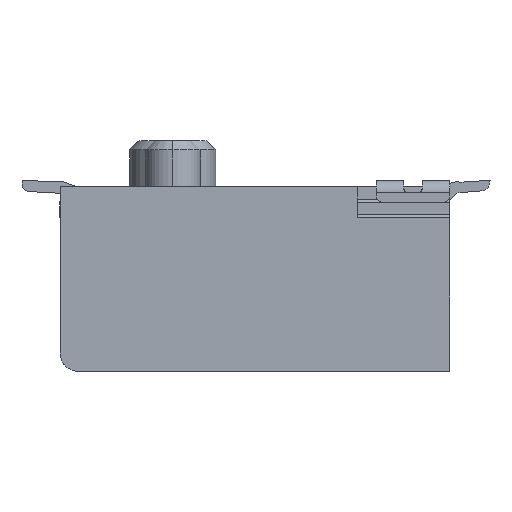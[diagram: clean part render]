
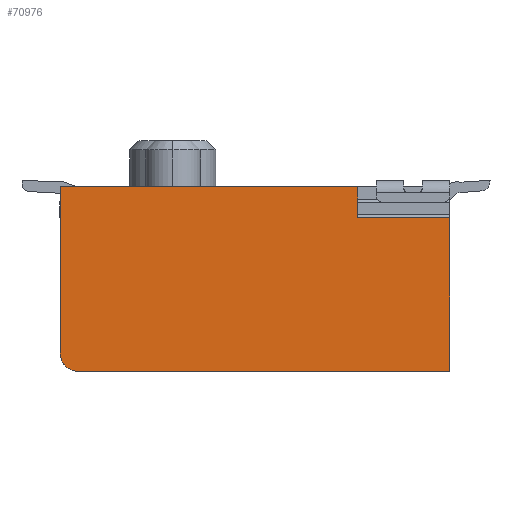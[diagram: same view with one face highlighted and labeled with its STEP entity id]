
A CAD part, left-side view. The second image highlights one B-rep face of the part: STEP entity #70976.
In plain terms, the highlighted planar face has unit normal (-1, 0, 0).
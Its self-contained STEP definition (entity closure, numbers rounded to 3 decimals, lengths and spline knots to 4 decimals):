
#25=DIRECTION('',(0.,-1.,0.));
#26=VECTOR('',#25,6.03);
#27=CARTESIAN_POINT('',(-10.95,2.865,0.));
#28=LINE('',#27,#26);
#4749=DIRECTION('',(0.,0.,1.));
#4750=VECTOR('',#4749,2.5);
#4751=CARTESIAN_POINT('',(-10.95,-3.165,0.));
#4752=LINE('',#4751,#4750);
#17126=DIRECTION('',(0.,-1.,0.));
#17127=VECTOR('',#17126,4.83);
#17128=CARTESIAN_POINT('',(-10.95,3.165,3.));
#17129=LINE('',#17128,#17127);
#20245=DIRECTION('',(0.,0.,1.));
#20246=VECTOR('',#20245,0.5);
#20247=CARTESIAN_POINT('',(-10.95,-1.665,2.5));
#20248=LINE('',#20247,#20246);
#20261=DIRECTION('',(0.,1.,0.));
#20262=VECTOR('',#20261,1.5);
#20263=CARTESIAN_POINT('',(-10.95,-3.165,2.5));
#20264=LINE('',#20263,#20262);
#20265=CARTESIAN_POINT('',(-10.95,2.865,0.3));
#20266=DIRECTION('',(-1.,0.,0.));
#20267=DIRECTION('',(0.,1.,0.));
#20268=AXIS2_PLACEMENT_3D('',#20265,#20266,#20267);
#20270=DIRECTION('',(0.,0.,1.));
#20271=VECTOR('',#20270,2.7);
#20272=CARTESIAN_POINT('',(-10.95,3.165,0.3));
#20273=LINE('',#20272,#20271);
#27830=CARTESIAN_POINT('',(-10.95,-3.165,0.));
#27832=VERTEX_POINT('',#27830);
#27895=CARTESIAN_POINT('',(-10.95,3.165,0.3));
#27896=CARTESIAN_POINT('',(-10.95,2.865,0.));
#27897=VERTEX_POINT('',#27895);
#27898=VERTEX_POINT('',#27896);
#27915=CARTESIAN_POINT('',(-10.95,3.165,3.));
#27916=VERTEX_POINT('',#27915);
#27975=CARTESIAN_POINT('',(-10.95,-1.665,3.));
#27976=VERTEX_POINT('',#27975);
#27977=CARTESIAN_POINT('',(-10.95,-3.165,2.5));
#27978=CARTESIAN_POINT('',(-10.95,-1.665,2.5));
#27979=VERTEX_POINT('',#27977);
#27980=VERTEX_POINT('',#27978);
#70961=CARTESIAN_POINT('',(-10.95,3.165,0.));
#70962=DIRECTION('',(-1.,0.,0.));
#70963=DIRECTION('',(0.,-1.,0.));
#70964=AXIS2_PLACEMENT_3D('',#70961,#70962,#70963);
#70965=PLANE('',#70964);
#70966=ORIENTED_EDGE('',*,*,#70924,.F.);
#70967=ORIENTED_EDGE('',*,*,#70948,.F.);
#70968=ORIENTED_EDGE('',*,*,#44850,.F.);
#70969=ORIENTED_EDGE('',*,*,#36480,.F.);
#70971=ORIENTED_EDGE('',*,*,#70970,.F.);
#70972=ORIENTED_EDGE('',*,*,#63979,.T.);
#70973=ORIENTED_EDGE('',*,*,#64041,.T.);
#70974=EDGE_LOOP('',(#70966,#70967,#70968,#70969,#70971,#70972,#70973));
#70975=FACE_OUTER_BOUND('',#70974,.F.);
#20269=CIRCLE('',#20268,0.3);
#36480=EDGE_CURVE('',#27898,#27832,#28,.T.);
#44850=EDGE_CURVE('',#27832,#27979,#4752,.T.);
#63979=EDGE_CURVE('',#27897,#27916,#20273,.T.);
#64041=EDGE_CURVE('',#27916,#27976,#17129,.T.);
#70924=EDGE_CURVE('',#27980,#27976,#20248,.T.);
#70948=EDGE_CURVE('',#27979,#27980,#20264,.T.);
#70970=EDGE_CURVE('',#27897,#27898,#20269,.T.);
#70976=ADVANCED_FACE('',(#70975),#70965,.T.);
